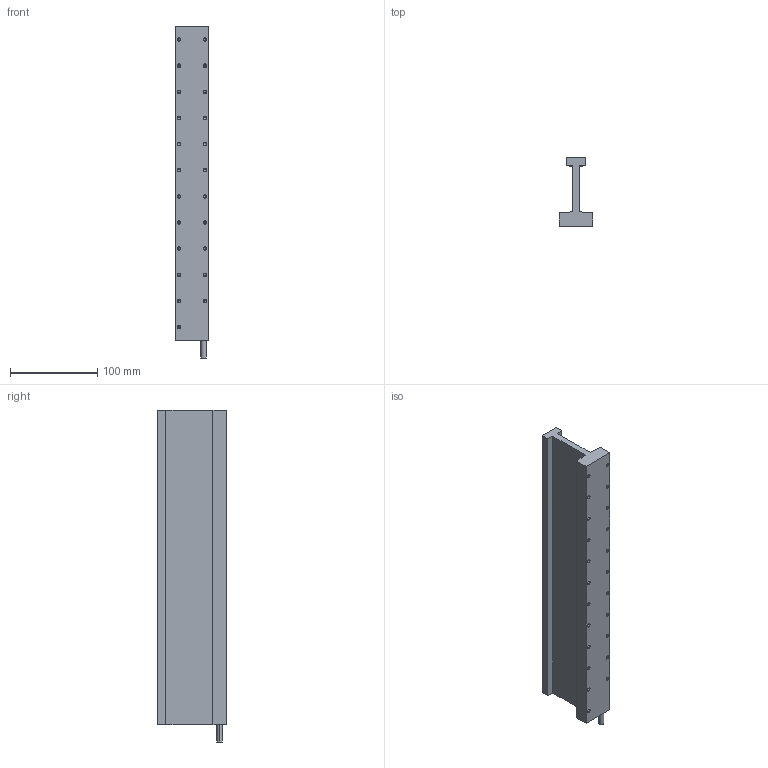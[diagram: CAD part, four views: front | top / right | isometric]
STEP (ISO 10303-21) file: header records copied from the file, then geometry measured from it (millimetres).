
FILE_DESCRIPTION (( 'STEP AP214' ), '1' );
FILE_NAME ('JKB46.STEP', '2025-09-05T12:49:58', ( '' ), ( '' ), 'SwSTEP 2.0', 'SolidWorks 2016', '' );
FILE_SCHEMA (( 'AUTOMOTIVE_DESIGN' ));
Length unit declared in the file: millimetre
Products named in the file (1): JKB46
Bounding box: 38.5 x 79.3 x 381 mm (x, y, z)
Volume: 448017.3 mm3; surface area: 100769.1 mm2
Topology: 1 solids, 1 shells, 155 faces, 364 edges, 189 vertices
Faces by surface type: cone 92, cylinder 48, plane 15
Entity records: 4582 total; most frequent: DIRECTION 772, CARTESIAN_POINT 663, ORIENTED_EDGE 636, EDGE_CURVE 318, AXIS2_PLACEMENT_3D 298, VERTEX_POINT 189, EDGE_LOOP 179, VECTOR 176
